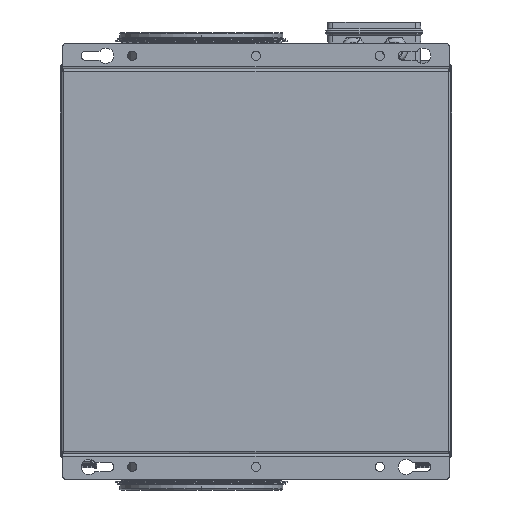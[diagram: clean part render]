
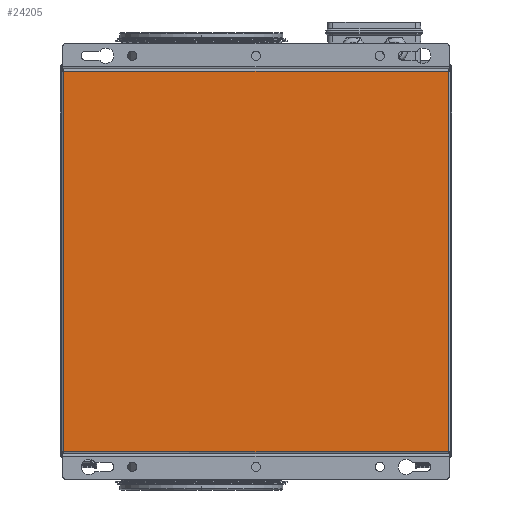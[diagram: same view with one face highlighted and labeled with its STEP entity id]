
A CAD part, front view. The second image highlights one B-rep face of the part: STEP entity #24205.
In plain terms, the highlighted planar face has unit normal (0, -1, 0).
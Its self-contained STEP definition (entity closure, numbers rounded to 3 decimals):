
#128 = CARTESIAN_POINT ( 'NONE',  ( -188., 0., 188. ) ) ;
#539 = CARTESIAN_POINT ( 'NONE',  ( 188., 0., 186. ) ) ;
#1131 = VECTOR ( 'NONE', #23360, 1000. ) ;
#1297 = DIRECTION ( 'NONE',  ( 0., 1., 0. ) ) ;
#2151 = LINE ( 'NONE', #24717, #21443 ) ;
#2353 = VERTEX_POINT ( 'NONE', #19855 ) ;
#3226 = VERTEX_POINT ( 'NONE', #5533 ) ;
#3799 = DIRECTION ( 'NONE',  ( 0., 0., 1. ) ) ;
#5533 = CARTESIAN_POINT ( 'NONE',  ( -188., 0., 186. ) ) ;
#6925 = VERTEX_POINT ( 'NONE', #13240 ) ;
#7754 = CARTESIAN_POINT ( 'NONE',  ( -190., 0., 188. ) ) ;
#8183 = ORIENTED_EDGE ( 'NONE', *, *, #17852, .T. ) ;
#8699 = VECTOR ( 'NONE', #25473, 1000. ) ;
#8806 = VECTOR ( 'NONE', #15926, 1000. ) ;
#9669 = FACE_OUTER_BOUND ( 'NONE', #26530, .T. ) ;
#10133 = EDGE_CURVE ( 'NONE', #2353, #11582, #2151, .T. ) ;
#11582 = VERTEX_POINT ( 'NONE', #21987 ) ;
#11667 = EDGE_CURVE ( 'NONE', #3226, #6925, #26984, .T. ) ;
#12581 = ORIENTED_EDGE ( 'NONE', *, *, #25150, .T. ) ;
#12608 = CARTESIAN_POINT ( 'NONE',  ( -188., 0., -186. ) ) ;
#13240 = CARTESIAN_POINT ( 'NONE',  ( -188., 0., -186. ) ) ;
#15926 = DIRECTION ( 'NONE',  ( 0., 0., -1. ) ) ;
#17852 = EDGE_CURVE ( 'NONE', #6925, #2353, #28252, .T. ) ;
#18067 = DIRECTION ( 'NONE',  ( 0., 0., 1. ) ) ;
#18556 = AXIS2_PLACEMENT_3D ( 'NONE', #7754, #1297, #3799 ) ;
#19404 = ORIENTED_EDGE ( 'NONE', *, *, #10133, .T. ) ;
#19531 = ORIENTED_EDGE ( 'NONE', *, *, #11667, .T. ) ;
#19855 = CARTESIAN_POINT ( 'NONE',  ( 188., 0., -186. ) ) ;
#20748 = LINE ( 'NONE', #539, #8699 ) ;
#21443 = VECTOR ( 'NONE', #18067, 1000. ) ;
#21987 = CARTESIAN_POINT ( 'NONE',  ( 188., 0., 186. ) ) ;
#23360 = DIRECTION ( 'NONE',  ( 1., 0., 0. ) ) ;
#24017 = PLANE ( 'NONE',  #18556 ) ;
#24205 = ADVANCED_FACE ( 'NONE', ( #9669 ), #24017, .F. ) ;
#24717 = CARTESIAN_POINT ( 'NONE',  ( 188., 0., -188. ) ) ;
#25150 = EDGE_CURVE ( 'NONE', #11582, #3226, #20748, .T. ) ;
#25473 = DIRECTION ( 'NONE',  ( -1., 0., 0. ) ) ;
#26530 = EDGE_LOOP ( 'NONE', ( #8183, #19404, #12581, #19531 ) ) ;
#26984 = LINE ( 'NONE', #128, #8806 ) ;
#28252 = LINE ( 'NONE', #12608, #1131 ) ;
